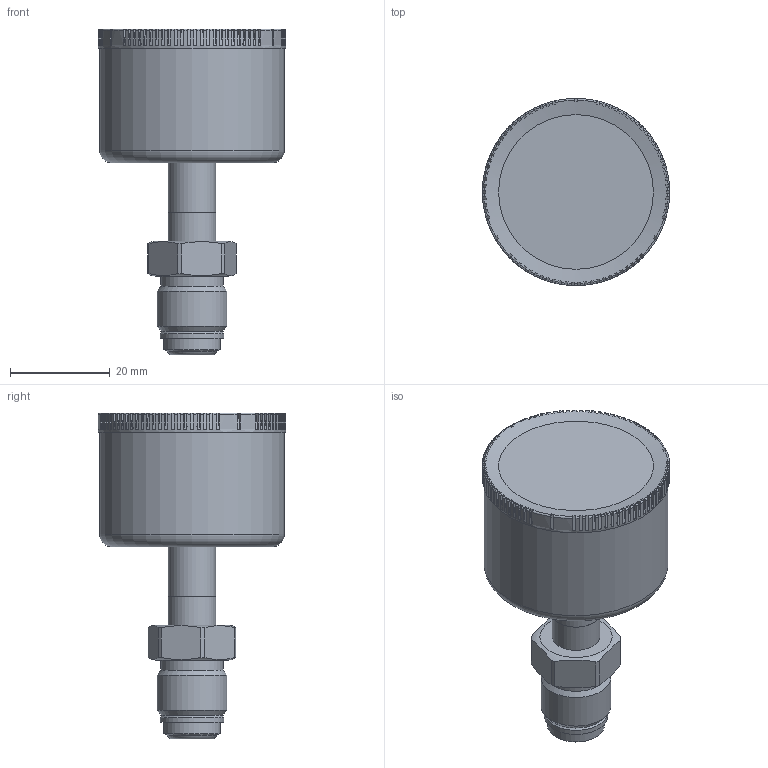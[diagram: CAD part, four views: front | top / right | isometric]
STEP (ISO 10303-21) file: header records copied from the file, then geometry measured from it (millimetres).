
FILE_DESCRIPTION(/* description */ (''),/* implementation_level */ '2;1');
FILE_NAME(/* name */ 'P800_35PI_CENTER BACK MOUNT_SWIVEL(M).stp',/* time_stamp */ '2025-04-02T08:47:37+09:00',/* author */ ('wise-209'),/* organization */ (''),/* preprocessor_version */ 'ST-DEVELOPER v19.2',/* originating_system */ 'Autodesk Inventor 2024',/* authorisation */ '');
FILE_SCHEMA (('AUTOMOTIVE_DESIGN { 1 0 10303 214 3 1 1 }'));
Length unit declared in the file: millimetre
Products named in the file (3): P820_50mm_F Type_SM_ASSY.ipt; UNF-MALE; case
Assembly tree (2 placements, depth 2):
  P820_50mm_F Type_SM_ASSY.ipt
    UNF-MALE
    case
Bounding box: 37.5 x 37.5 x 65.3 mm (x, y, z)
Volume: 30577 mm3; surface area: 9655.7 mm2
Topology: 2 solids, 3 shells, 347 faces, 995 edges, 662 vertices
Faces by surface type: plane 245, torus 81, cylinder 17, cone 4
Full cylindrical faces by diameter (mm): 6.3 x1, 7.8 x1, 9.53 x2, 11.4 x1, 12.5 x1, 12.7 x1, 14 x1, 31 x1, 37 x1, 37.5 x1
Entity records: 13397 total; most frequent: CARTESIAN_POINT 4475, ORIENTED_EDGE 1990, DIRECTION 1733, EDGE_CURVE 995, VERTEX_POINT 662, AXIS2_PLACEMENT_3D 628, LINE 477, VECTOR 477
